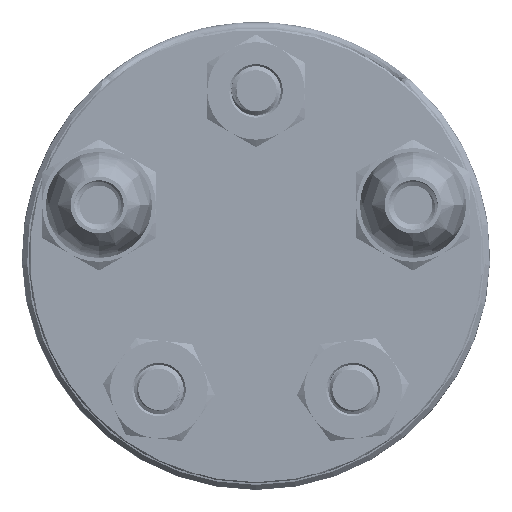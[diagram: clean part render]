
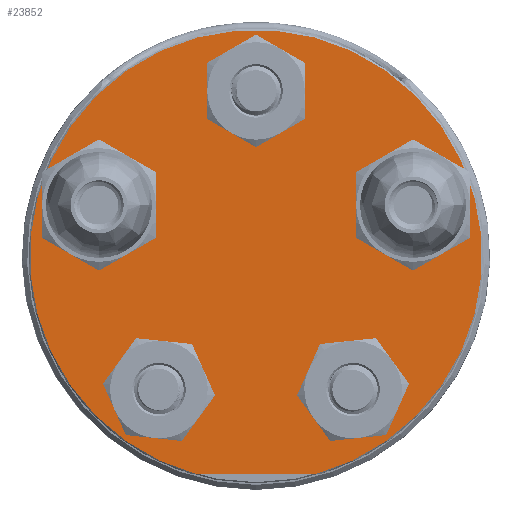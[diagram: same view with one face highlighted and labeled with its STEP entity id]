
A CAD part, front view. The second image highlights one B-rep face of the part: STEP entity #23852.
In plain terms, the highlighted planar face has unit normal (0, -1, 0).
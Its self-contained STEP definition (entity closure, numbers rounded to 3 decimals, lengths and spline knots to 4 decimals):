
#2651=LINE('',#33157,#3805);
#3805=VECTOR('',#27638,0.3937);
#5739=FACE_BOUND('',#7586,.T.);
#5740=FACE_BOUND('',#7587,.T.);
#5741=FACE_BOUND('',#7588,.T.);
#5742=FACE_BOUND('',#7589,.T.);
#5743=FACE_BOUND('',#7590,.T.);
#5824=PLANE('',#25540);
#6111=FACE_OUTER_BOUND('',#7585,.T.);
#7585=EDGE_LOOP('',(#16241,#16242));
#7586=EDGE_LOOP('',(#16243));
#7587=EDGE_LOOP('',(#16244));
#7588=EDGE_LOOP('',(#16245));
#7589=EDGE_LOOP('',(#16246));
#7590=EDGE_LOOP('',(#16247));
#9129=CIRCLE('',#25541,0.87);
#9130=CIRCLE('',#25542,0.098);
#9131=CIRCLE('',#25543,0.098);
#9132=CIRCLE('',#25544,0.098);
#9133=CIRCLE('',#25545,0.098);
#9134=CIRCLE('',#25546,0.098);
#9762=VERTEX_POINT('',#33135);
#9768=VERTEX_POINT('',#33153);
#9770=VERTEX_POINT('',#33162);
#9771=VERTEX_POINT('',#33164);
#9772=VERTEX_POINT('',#33166);
#9773=VERTEX_POINT('',#33168);
#9774=VERTEX_POINT('',#33170);
#12297=EDGE_CURVE('',#9762,#9768,#2651,.T.);
#12299=EDGE_CURVE('',#9762,#9768,#9129,.T.);
#12300=EDGE_CURVE('',#9770,#9770,#9130,.T.);
#12301=EDGE_CURVE('',#9771,#9771,#9131,.T.);
#12302=EDGE_CURVE('',#9772,#9772,#9132,.T.);
#12303=EDGE_CURVE('',#9773,#9773,#9133,.T.);
#12304=EDGE_CURVE('',#9774,#9774,#9134,.T.);
#16241=ORIENTED_EDGE('',*,*,#12297,.T.);
#16242=ORIENTED_EDGE('',*,*,#12299,.F.);
#16243=ORIENTED_EDGE('',*,*,#12300,.T.);
#16244=ORIENTED_EDGE('',*,*,#12301,.T.);
#16245=ORIENTED_EDGE('',*,*,#12302,.T.);
#16246=ORIENTED_EDGE('',*,*,#12303,.T.);
#16247=ORIENTED_EDGE('',*,*,#12304,.T.);
#23852=ADVANCED_FACE('',(#6111,#5739,#5740,#5741,#5742,#5743),#5824,.T.);
#25540=AXIS2_PLACEMENT_3D('',#33160,#27641,#27642);
#25541=AXIS2_PLACEMENT_3D('',#33161,#27643,#27644);
#25542=AXIS2_PLACEMENT_3D('',#33163,#27645,#27646);
#25543=AXIS2_PLACEMENT_3D('',#33165,#27647,#27648);
#25544=AXIS2_PLACEMENT_3D('',#33167,#27649,#27650);
#25545=AXIS2_PLACEMENT_3D('',#33169,#27651,#27652);
#25546=AXIS2_PLACEMENT_3D('',#33171,#27653,#27654);
#27638=DIRECTION('',(1.,0.,0.));
#27641=DIRECTION('center_axis',(0.,-1.,0.));
#27642=DIRECTION('ref_axis',(0.,0.,-1.));
#27643=DIRECTION('center_axis',(0.,1.,0.));
#27644=DIRECTION('ref_axis',(0.,0.,-1.));
#27645=DIRECTION('center_axis',(0.,1.,0.));
#27646=DIRECTION('ref_axis',(0.309,0.,0.951));
#27647=DIRECTION('center_axis',(0.,1.,0.));
#27648=DIRECTION('ref_axis',(-0.809,0.,0.588));
#27649=DIRECTION('center_axis',(0.,1.,0.));
#27650=DIRECTION('ref_axis',(-0.809,0.,-0.588));
#27651=DIRECTION('center_axis',(0.,1.,0.));
#27652=DIRECTION('ref_axis',(0.309,0.,-0.951));
#27653=DIRECTION('center_axis',(0.,1.,0.));
#27654=DIRECTION('ref_axis',(1.,0.,0.));
#33135=CARTESIAN_POINT('',(-0.2265,0.,-0.84));
#33153=CARTESIAN_POINT('',(0.2265,0.,-0.84));
#33157=CARTESIAN_POINT('',(0.,0.,-0.84));
#33160=CARTESIAN_POINT('Origin',(0.,0.,0.875));
#33161=CARTESIAN_POINT('Origin',(0.,0.,0.));
#33162=CARTESIAN_POINT('',(-0.6342,0.,0.103));
#33163=CARTESIAN_POINT('Origin',(-0.6039,0.,
0.1962));
#33164=CARTESIAN_POINT('',(-0.294,0.,-0.5713));
#33165=CARTESIAN_POINT('Origin',(-0.3732,0.,
-0.5137));
#33166=CARTESIAN_POINT('',(0.4525,0.,-0.4561));
#33167=CARTESIAN_POINT('Origin',(0.3732,0.,
-0.5137));
#33168=CARTESIAN_POINT('',(0.5736,0.,0.2894));
#33169=CARTESIAN_POINT('Origin',(0.6039,0.,
0.1962));
#33170=CARTESIAN_POINT('',(-0.098,0.,0.635));
#33171=CARTESIAN_POINT('Origin',(0.,0.,0.635));
